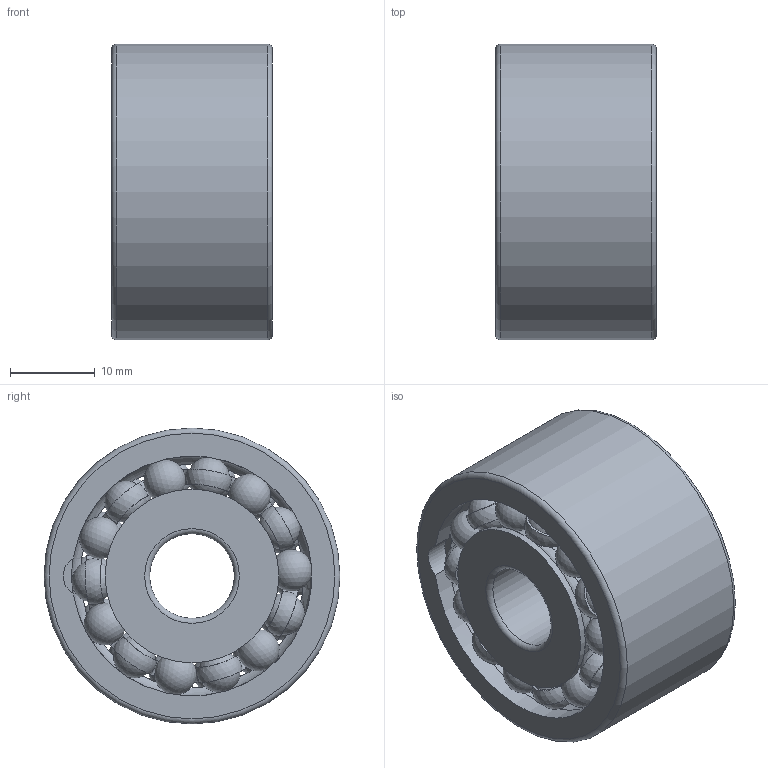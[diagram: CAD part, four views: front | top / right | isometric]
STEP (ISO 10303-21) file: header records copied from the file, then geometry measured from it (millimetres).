
FILE_DESCRIPTION(/* description */ (''),/* implementation_level */ '2;1');
FILE_NAME(/* name */ 'D:\BASISTA_PLOCHA\PARAMETRICKE PRE STP\STEP-PRE BELESTAKA\Dvojradové guľkové ložiská s kosouhlým stykom-je\3300E.stp',/* time_stamp */ '2020-02-28T14:43:39+01:00',/* author */ ('OUBASISTA'),/* organization */ (''),/* preprocessor_version */ 'ST-DEVELOPER v17.2',/* originating_system */ 'Autodesk Inventor 2019',/* authorisation */ '');
FILE_SCHEMA (('AUTOMOTIVE_DESIGN { 1 0 10303 214 3 1 1 }'));
Length unit declared in the file: millimetre
Products named in the file (5): 3300E; 3300E-02; 3300E-cage; 3300E-ball; 3300E-01
Assembly tree (32 placements, depth 2):
  3300E
    3300E-02
    3300E-cage  x2
    3300E-ball  x28
    3300E-01
Bounding box: 19 x 35 x 35 mm (x, y, z)
Volume: 12799 mm3; surface area: 9730.1 mm2
Topology: 32 solids, 32 shells, 360 faces, 1002 edges, 646 vertices
Faces by surface type: bspline 168, sphere 84, plane 61, cylinder 39, torus 8
Full cylindrical faces by diameter (mm): 10 x1, 18.547 x1, 20.528 x2, 25.3 x2, 26.472 x1, 28.354 x1, 35 x1
Entity records: 9514 total; most frequent: CARTESIAN_POINT 5064, ORIENTED_EDGE 992, DIRECTION 718, EDGE_CURVE 496, VERTEX_POINT 324, AXIS2_PLACEMENT_3D 291, B_SPLINE_CURVE_WITH_KNOTS 200, EDGE_LOOP 182
